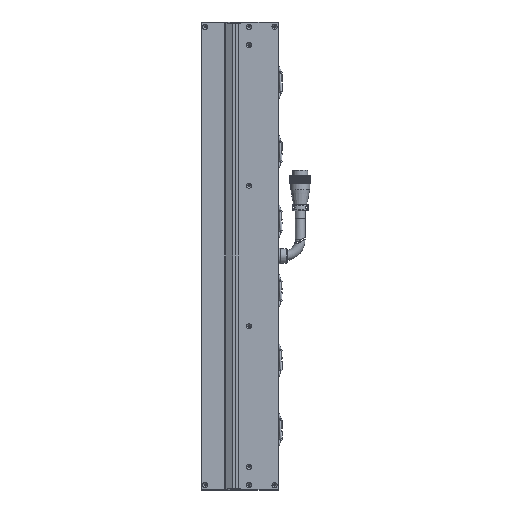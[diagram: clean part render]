
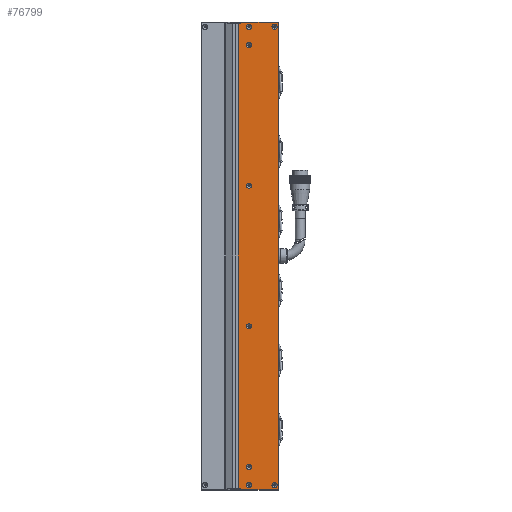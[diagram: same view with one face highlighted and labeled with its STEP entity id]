
A CAD part, left-side view. The second image highlights one B-rep face of the part: STEP entity #76799.
In plain terms, the highlighted planar face has unit normal (-1, 0, 0).
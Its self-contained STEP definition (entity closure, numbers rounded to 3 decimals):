
#317 = EDGE_LOOP ( 'NONE', ( #99247 ) ) ;
#1946 = EDGE_CURVE ( 'NONE', #16246, #22311, #21904, .T. ) ;
#2107 = EDGE_CURVE ( 'NONE', #15192, #15192, #10535, .T. ) ;
#2628 = CARTESIAN_POINT ( 'NONE',  ( -24.998, -72.5, 282.5 ) ) ;
#2750 = DIRECTION ( 'NONE',  ( -1., 0., 0. ) ) ;
#4688 = CARTESIAN_POINT ( 'NONE',  ( -24.998, -67.5, -273.85 ) ) ;
#4843 = CARTESIAN_POINT ( 'NONE',  ( -24.998, -36.5, 88.15 ) ) ;
#5356 = DIRECTION ( 'NONE',  ( 0., 0., 1. ) ) ;
#6523 = FACE_BOUND ( 'NONE', #317, .T. ) ;
#6865 = VECTOR ( 'NONE', #98393, 1000. ) ;
#7098 = CARTESIAN_POINT ( 'NONE',  ( -24.998, -72.5, 281. ) ) ;
#7997 = CIRCLE ( 'NONE', #112767, 3.15 ) ;
#10535 = CIRCLE ( 'NONE', #71691, 3.15 ) ;
#11775 = LINE ( 'NONE', #59721, #24539 ) ;
#12345 = DIRECTION ( 'NONE',  ( 0., 0., 1. ) ) ;
#12787 = AXIS2_PLACEMENT_3D ( 'NONE', #97814, #98186, #62049 ) ;
#12880 = EDGE_CURVE ( 'NONE', #71903, #71903, #22001, .T. ) ;
#12992 = LINE ( 'NONE', #95565, #45685 ) ;
#13044 = CARTESIAN_POINT ( 'NONE',  ( -24.998, -23.25, -281. ) ) ;
#15192 = VERTEX_POINT ( 'NONE', #91840 ) ;
#16246 = VERTEX_POINT ( 'NONE', #46632 ) ;
#16537 = FACE_BOUND ( 'NONE', #45592, .T. ) ;
#17005 = DIRECTION ( 'NONE',  ( -1., 0., 0. ) ) ;
#18018 = ORIENTED_EDGE ( 'NONE', *, *, #59361, .T. ) ;
#19625 = CARTESIAN_POINT ( 'NONE',  ( -24.998, -36.5, -255. ) ) ;
#21360 = CARTESIAN_POINT ( 'NONE',  ( -24.998, -36.5, -251.85 ) ) ;
#21904 = LINE ( 'NONE', #24152, #55974 ) ;
#22001 = CIRCLE ( 'NONE', #69213, 3.15 ) ;
#22311 = VERTEX_POINT ( 'NONE', #31734 ) ;
#23579 = FACE_BOUND ( 'NONE', #37856, .T. ) ;
#23614 = ORIENTED_EDGE ( 'NONE', *, *, #2107, .F. ) ;
#23642 = ORIENTED_EDGE ( 'NONE', *, *, #78284, .F. ) ;
#24112 = CARTESIAN_POINT ( 'NONE',  ( -24.998, -67.5, 280.15 ) ) ;
#24152 = CARTESIAN_POINT ( 'NONE',  ( -24.998, -72.5, 281. ) ) ;
#24539 = VECTOR ( 'NONE', #5356, 1000. ) ;
#25280 = EDGE_CURVE ( 'NONE', #107327, #107327, #86326, .T. ) ;
#26361 = EDGE_LOOP ( 'NONE', ( #60342 ) ) ;
#26443 = FACE_BOUND ( 'NONE', #89026, .T. ) ;
#29081 = VERTEX_POINT ( 'NONE', #49203 ) ;
#30508 = ORIENTED_EDGE ( 'NONE', *, *, #51148, .T. ) ;
#30604 = DIRECTION ( 'NONE',  ( -1., 0., 0. ) ) ;
#31353 = EDGE_CURVE ( 'NONE', #39063, #39063, #47073, .T. ) ;
#31611 = VERTEX_POINT ( 'NONE', #24112 ) ;
#31734 = CARTESIAN_POINT ( 'NONE',  ( -24.998, -26.5, 281. ) ) ;
#32097 = CARTESIAN_POINT ( 'NONE',  ( -24.998, -67.5, 277. ) ) ;
#32653 = CIRCLE ( 'NONE', #91906, 3.15 ) ;
#33506 = FACE_BOUND ( 'NONE', #75986, .T. ) ;
#33708 = PLANE ( 'NONE',  #98300 ) ;
#34887 = CARTESIAN_POINT ( 'NONE',  ( -24.998, -26.5, -274. ) ) ;
#37543 = ORIENTED_EDGE ( 'NONE', *, *, #110973, .F. ) ;
#37581 = DIRECTION ( 'NONE',  ( 0., 0., 1. ) ) ;
#37752 = VERTEX_POINT ( 'NONE', #47296 ) ;
#37856 = EDGE_LOOP ( 'NONE', ( #73538 ) ) ;
#38595 = CARTESIAN_POINT ( 'NONE',  ( -24.998, -67.5, -277. ) ) ;
#39063 = VERTEX_POINT ( 'NONE', #85814 ) ;
#40228 = VERTEX_POINT ( 'NONE', #93940 ) ;
#44174 = LINE ( 'NONE', #101565, #65439 ) ;
#44881 = FACE_BOUND ( 'NONE', #116553, .T. ) ;
#44910 = LINE ( 'NONE', #55880, #81819 ) ;
#45035 = CARTESIAN_POINT ( 'NONE',  ( -24.998, -36.5, 255. ) ) ;
#45592 = EDGE_LOOP ( 'NONE', ( #37543 ) ) ;
#45685 = VECTOR ( 'NONE', #77693, 1000. ) ;
#46097 = CARTESIAN_POINT ( 'NONE',  ( -24.998, -72., -282.5 ) ) ;
#46632 = CARTESIAN_POINT ( 'NONE',  ( -24.998, -23.25, 281. ) ) ;
#46959 = DIRECTION ( 'NONE',  ( 0., 0., 1. ) ) ;
#46961 = LINE ( 'NONE', #67535, #58376 ) ;
#47073 = CIRCLE ( 'NONE', #116620, 3.15 ) ;
#47296 = CARTESIAN_POINT ( 'NONE',  ( -24.998, -72., 282.5 ) ) ;
#47778 = DIRECTION ( 'NONE',  ( -1., 0., 0. ) ) ;
#47972 = CARTESIAN_POINT ( 'NONE',  ( -24.998, -36.5, -277. ) ) ;
#48109 = CARTESIAN_POINT ( 'NONE',  ( -24.998, -36.5, 258.15 ) ) ;
#49203 = CARTESIAN_POINT ( 'NONE',  ( -24.998, -26.5, -282.5 ) ) ;
#49292 = VERTEX_POINT ( 'NONE', #13044 ) ;
#49577 = EDGE_CURVE ( 'NONE', #29081, #112979, #12992, .T. ) ;
#50574 = FACE_BOUND ( 'NONE', #26361, .T. ) ;
#50824 = LINE ( 'NONE', #34887, #6865 ) ;
#51148 = EDGE_CURVE ( 'NONE', #68027, #29081, #50824, .T. ) ;
#51233 = VECTOR ( 'NONE', #66482, 1000. ) ;
#54719 = DIRECTION ( 'NONE',  ( 0., 0., -1. ) ) ;
#54791 = FACE_OUTER_BOUND ( 'NONE', #66129, .T. ) ;
#55348 = DIRECTION ( 'NONE',  ( 0., 0., 1. ) ) ;
#55880 = CARTESIAN_POINT ( 'NONE',  ( -24.998, -23.25, -281. ) ) ;
#55974 = VECTOR ( 'NONE', #86895, 1000. ) ;
#57563 = ORIENTED_EDGE ( 'NONE', *, *, #49577, .T. ) ;
#58376 = VECTOR ( 'NONE', #90007, 1000. ) ;
#59361 = EDGE_CURVE ( 'NONE', #37752, #40228, #102365, .T. ) ;
#59721 = CARTESIAN_POINT ( 'NONE',  ( -24.998, -72., 281. ) ) ;
#60342 = ORIENTED_EDGE ( 'NONE', *, *, #98613, .F. ) ;
#60676 = DIRECTION ( 'NONE',  ( 0., 0., 1. ) ) ;
#61392 = AXIS2_PLACEMENT_3D ( 'NONE', #32097, #87647, #78513 ) ;
#61756 = EDGE_CURVE ( 'NONE', #40228, #22311, #44174, .T. ) ;
#62049 = DIRECTION ( 'NONE',  ( 0., 0., 1. ) ) ;
#62146 = ORIENTED_EDGE ( 'NONE', *, *, #71208, .T. ) ;
#65439 = VECTOR ( 'NONE', #82142, 1000. ) ;
#66129 = EDGE_LOOP ( 'NONE', ( #62146, #30508, #57563, #91155, #18018, #97138, #88900, #23642 ) ) ;
#66209 = DIRECTION ( 'NONE',  ( 0., 0., 1. ) ) ;
#66482 = DIRECTION ( 'NONE',  ( 0., 1., 0. ) ) ;
#67535 = CARTESIAN_POINT ( 'NONE',  ( -24.998, -72.5, -281. ) ) ;
#68027 = VERTEX_POINT ( 'NONE', #113595 ) ;
#69213 = AXIS2_PLACEMENT_3D ( 'NONE', #45035, #109744, #55348 ) ;
#71208 = EDGE_CURVE ( 'NONE', #49292, #68027, #46961, .T. ) ;
#71691 = AXIS2_PLACEMENT_3D ( 'NONE', #80124, #17005, #60676 ) ;
#71903 = VERTEX_POINT ( 'NONE', #48109 ) ;
#73538 = ORIENTED_EDGE ( 'NONE', *, *, #25280, .F. ) ;
#73991 = DIRECTION ( 'NONE',  ( 0., 0., 1. ) ) ;
#75317 = CIRCLE ( 'NONE', #61392, 3.15 ) ;
#75649 = VERTEX_POINT ( 'NONE', #21360 ) ;
#75986 = EDGE_LOOP ( 'NONE', ( #107599 ) ) ;
#76799 = ADVANCED_FACE ( 'NONE', ( #16537, #111677, #33506, #44881, #23579, #26443, #50574, #6523, #54791 ), #33708, .F. ) ;
#77693 = DIRECTION ( 'NONE',  ( 0., -1., 0. ) ) ;
#78284 = EDGE_CURVE ( 'NONE', #49292, #16246, #44910, .T. ) ;
#78513 = DIRECTION ( 'NONE',  ( 0., 0., 1. ) ) ;
#78702 = EDGE_LOOP ( 'NONE', ( #23614 ) ) ;
#80124 = CARTESIAN_POINT ( 'NONE',  ( -24.998, -36.5, 277. ) ) ;
#80892 = EDGE_CURVE ( 'NONE', #115588, #115588, #102901, .T. ) ;
#80996 = ORIENTED_EDGE ( 'NONE', *, *, #12880, .F. ) ;
#81819 = VECTOR ( 'NONE', #37581, 1000. ) ;
#82142 = DIRECTION ( 'NONE',  ( 0., 0., -1. ) ) ;
#82532 = EDGE_CURVE ( 'NONE', #112979, #37752, #11775, .T. ) ;
#82539 = CARTESIAN_POINT ( 'NONE',  ( -24.998, -36.5, -81.85 ) ) ;
#84974 = CARTESIAN_POINT ( 'NONE',  ( -24.998, -36.5, -85. ) ) ;
#85814 = CARTESIAN_POINT ( 'NONE',  ( -24.998, -36.5, -273.85 ) ) ;
#86326 = CIRCLE ( 'NONE', #12787, 3.15 ) ;
#86895 = DIRECTION ( 'NONE',  ( 0., -1., 0. ) ) ;
#87647 = DIRECTION ( 'NONE',  ( -1., 0., 0. ) ) ;
#88900 = ORIENTED_EDGE ( 'NONE', *, *, #1946, .F. ) ;
#89026 = EDGE_LOOP ( 'NONE', ( #80996 ) ) ;
#90007 = DIRECTION ( 'NONE',  ( 0., -1., 0. ) ) ;
#90315 = EDGE_CURVE ( 'NONE', #75649, #75649, #7997, .T. ) ;
#91155 = ORIENTED_EDGE ( 'NONE', *, *, #82532, .T. ) ;
#91840 = CARTESIAN_POINT ( 'NONE',  ( -24.998, -36.5, 280.15 ) ) ;
#91906 = AXIS2_PLACEMENT_3D ( 'NONE', #38595, #102534, #46959 ) ;
#93680 = ORIENTED_EDGE ( 'NONE', *, *, #80892, .F. ) ;
#93940 = CARTESIAN_POINT ( 'NONE',  ( -24.998, -26.5, 282.5 ) ) ;
#95565 = CARTESIAN_POINT ( 'NONE',  ( -24.998, -72.5, -282.5 ) ) ;
#97138 = ORIENTED_EDGE ( 'NONE', *, *, #61756, .T. ) ;
#97778 = AXIS2_PLACEMENT_3D ( 'NONE', #84974, #30604, #12345 ) ;
#97814 = CARTESIAN_POINT ( 'NONE',  ( -24.998, -36.5, 85. ) ) ;
#98186 = DIRECTION ( 'NONE',  ( -1., 0., 0. ) ) ;
#98300 = AXIS2_PLACEMENT_3D ( 'NONE', #7098, #115909, #54719 ) ;
#98393 = DIRECTION ( 'NONE',  ( 0., 0., -1. ) ) ;
#98613 = EDGE_CURVE ( 'NONE', #106887, #106887, #32653, .T. ) ;
#99247 = ORIENTED_EDGE ( 'NONE', *, *, #31353, .F. ) ;
#101565 = CARTESIAN_POINT ( 'NONE',  ( -24.998, -26.5, 274. ) ) ;
#102365 = LINE ( 'NONE', #2628, #51233 ) ;
#102534 = DIRECTION ( 'NONE',  ( -1., 0., 0. ) ) ;
#102901 = CIRCLE ( 'NONE', #97778, 3.15 ) ;
#106887 = VERTEX_POINT ( 'NONE', #4688 ) ;
#107327 = VERTEX_POINT ( 'NONE', #4843 ) ;
#107599 = ORIENTED_EDGE ( 'NONE', *, *, #90315, .F. ) ;
#109744 = DIRECTION ( 'NONE',  ( -1., 0., 0. ) ) ;
#110973 = EDGE_CURVE ( 'NONE', #31611, #31611, #75317, .T. ) ;
#111677 = FACE_BOUND ( 'NONE', #78702, .T. ) ;
#112767 = AXIS2_PLACEMENT_3D ( 'NONE', #19625, #47778, #73991 ) ;
#112979 = VERTEX_POINT ( 'NONE', #46097 ) ;
#113595 = CARTESIAN_POINT ( 'NONE',  ( -24.998, -26.5, -281. ) ) ;
#115588 = VERTEX_POINT ( 'NONE', #82539 ) ;
#115909 = DIRECTION ( 'NONE',  ( 1., 0., 0. ) ) ;
#116553 = EDGE_LOOP ( 'NONE', ( #93680 ) ) ;
#116620 = AXIS2_PLACEMENT_3D ( 'NONE', #47972, #2750, #66209 ) ;
